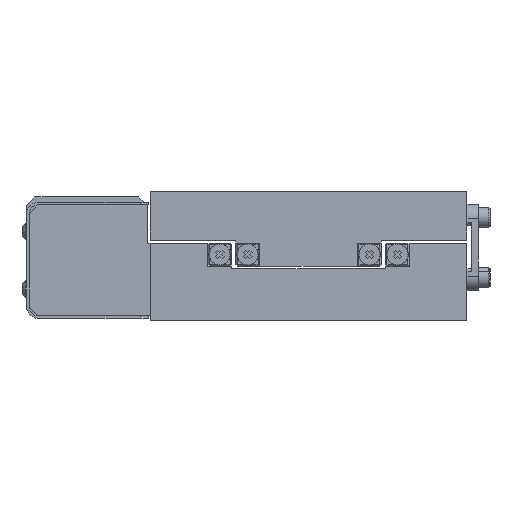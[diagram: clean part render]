
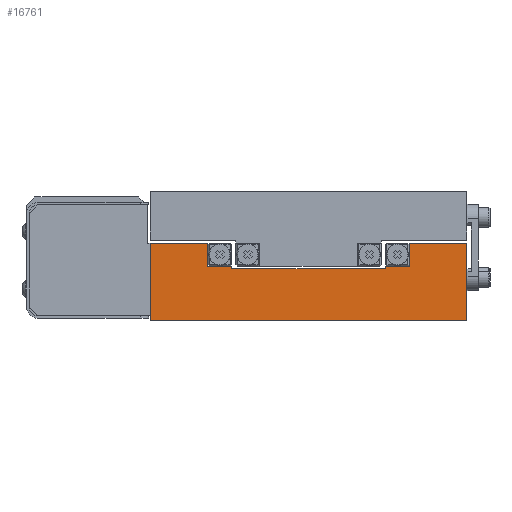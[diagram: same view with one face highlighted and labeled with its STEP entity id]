
A CAD part, front view. The second image highlights one B-rep face of the part: STEP entity #16761.
In plain terms, the highlighted planar face has unit normal (0, -1, 0).
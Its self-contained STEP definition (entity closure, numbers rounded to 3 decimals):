
#66 = LINE ( 'NONE', #39163, #34057 ) ;
#948 = CARTESIAN_POINT ( 'NONE',  ( -26.7, -75., 18. ) ) ;
#1262 = CARTESIAN_POINT ( 'NONE',  ( 35., -75., 27. ) ) ;
#1587 = VECTOR ( 'NONE', #24935, 1000. ) ;
#1725 = LINE ( 'NONE', #40819, #38484 ) ;
#1888 = VECTOR ( 'NONE', #7886, 1000. ) ;
#2174 = LINE ( 'NONE', #18067, #52046 ) ;
#3212 = CARTESIAN_POINT ( 'NONE',  ( -26.7, -75., 19. ) ) ;
#4945 = ORIENTED_EDGE ( 'NONE', *, *, #43928, .T. ) ;
#5204 = CARTESIAN_POINT ( 'NONE',  ( 35., -75., 19. ) ) ;
#6698 = EDGE_CURVE ( 'NONE', #20616, #33906, #38237, .T. ) ;
#6811 = ORIENTED_EDGE ( 'NONE', *, *, #12399, .F. ) ;
#7886 = DIRECTION ( 'NONE',  ( 1., 0., 0. ) ) ;
#8160 = DIRECTION ( 'NONE',  ( 0., 0., -1. ) ) ;
#8434 = VECTOR ( 'NONE', #31679, 1000. ) ;
#8998 = DIRECTION ( 'NONE',  ( 0., 0., -1. ) ) ;
#9884 = DIRECTION ( 'NONE',  ( 1., 0., 0. ) ) ;
#10144 = LINE ( 'NONE', #48670, #55835 ) ;
#10340 = LINE ( 'NONE', #948, #12417 ) ;
#12321 = CARTESIAN_POINT ( 'NONE',  ( 26.7, -75., 18. ) ) ;
#12399 = EDGE_CURVE ( 'NONE', #44153, #44307, #17151, .T. ) ;
#12417 = VECTOR ( 'NONE', #9884, 1000. ) ;
#13718 = DIRECTION ( 'NONE',  ( 1., 0., 0. ) ) ;
#14412 = CARTESIAN_POINT ( 'NONE',  ( 26.7, -75., 18. ) ) ;
#14866 = DIRECTION ( 'NONE',  ( 0., 0., 1. ) ) ;
#15046 = ORIENTED_EDGE ( 'NONE', *, *, #40645, .F. ) ;
#15247 = DIRECTION ( 'NONE',  ( 0., 1., 0. ) ) ;
#15308 = VECTOR ( 'NONE', #25456, 1000. ) ;
#15589 = DIRECTION ( 'NONE',  ( 1., 0., 0. ) ) ;
#16761 = ADVANCED_FACE ( 'NONE', ( #42002 ), #41768, .F. ) ;
#17151 = LINE ( 'NONE', #42769, #1888 ) ;
#17279 = ORIENTED_EDGE ( 'NONE', *, *, #55632, .F. ) ;
#17372 = VERTEX_POINT ( 'NONE', #17482 ) ;
#17482 = CARTESIAN_POINT ( 'NONE',  ( -26.7, -75., 18. ) ) ;
#17717 = LINE ( 'NONE', #50861, #51613 ) ;
#18067 = CARTESIAN_POINT ( 'NONE',  ( -26.7, -75., 19. ) ) ;
#18251 = VERTEX_POINT ( 'NONE', #20469 ) ;
#19529 = VERTEX_POINT ( 'NONE', #40525 ) ;
#20240 = CARTESIAN_POINT ( 'NONE',  ( -55., -75., 27. ) ) ;
#20469 = CARTESIAN_POINT ( 'NONE',  ( 55., -75., 27. ) ) ;
#20616 = VERTEX_POINT ( 'NONE', #12321 ) ;
#22026 = EDGE_LOOP ( 'NONE', ( #17279, #45781, #15046, #52827, #45536, #48021, #52800, #46733, #6811, #38162, #4945, #26268 ) ) ;
#23719 = CARTESIAN_POINT ( 'NONE',  ( -55., -75., 27. ) ) ;
#24935 = DIRECTION ( 'NONE',  ( 1., 0., 0. ) ) ;
#25456 = DIRECTION ( 'NONE',  ( 0., 0., 1. ) ) ;
#26268 = ORIENTED_EDGE ( 'NONE', *, *, #31176, .F. ) ;
#26474 = EDGE_CURVE ( 'NONE', #31984, #34266, #33259, .T. ) ;
#26604 = VERTEX_POINT ( 'NONE', #1262 ) ;
#27434 = VECTOR ( 'NONE', #15589, 1000. ) ;
#27562 = VERTEX_POINT ( 'NONE', #5204 ) ;
#28510 = AXIS2_PLACEMENT_3D ( 'NONE', #23719, #15247, #14866 ) ;
#31176 = EDGE_CURVE ( 'NONE', #18251, #54165, #66, .T. ) ;
#31679 = DIRECTION ( 'NONE',  ( 0., 0., 1. ) ) ;
#31984 = VERTEX_POINT ( 'NONE', #35166 ) ;
#33259 = LINE ( 'NONE', #49086, #46397 ) ;
#33906 = VERTEX_POINT ( 'NONE', #53386 ) ;
#34057 = VECTOR ( 'NONE', #8160, 1000. ) ;
#34266 = VERTEX_POINT ( 'NONE', #3212 ) ;
#35166 = CARTESIAN_POINT ( 'NONE',  ( -35., -75., 19. ) ) ;
#38162 = ORIENTED_EDGE ( 'NONE', *, *, #55441, .T. ) ;
#38191 = LINE ( 'NONE', #56590, #15308 ) ;
#38237 = LINE ( 'NONE', #14412, #8434 ) ;
#38484 = VECTOR ( 'NONE', #40044, 1000. ) ;
#39163 = CARTESIAN_POINT ( 'NONE',  ( 55., -75., 27. ) ) ;
#40028 = CARTESIAN_POINT ( 'NONE',  ( 55., -75., 0. ) ) ;
#40044 = DIRECTION ( 'NONE',  ( 1., 0., 0. ) ) ;
#40525 = CARTESIAN_POINT ( 'NONE',  ( -55., -75., 0. ) ) ;
#40645 = EDGE_CURVE ( 'NONE', #33906, #27562, #56959, .T. ) ;
#40819 = CARTESIAN_POINT ( 'NONE',  ( -55., -75., 0. ) ) ;
#41768 = PLANE ( 'NONE',  #28510 ) ;
#42002 = FACE_OUTER_BOUND ( 'NONE', #22026, .T. ) ;
#42027 = EDGE_CURVE ( 'NONE', #34266, #17372, #2174, .T. ) ;
#42769 = CARTESIAN_POINT ( 'NONE',  ( -55., -75., 27. ) ) ;
#43928 = EDGE_CURVE ( 'NONE', #19529, #54165, #1725, .T. ) ;
#44153 = VERTEX_POINT ( 'NONE', #46977 ) ;
#44160 = CARTESIAN_POINT ( 'NONE',  ( -35., -75., 27. ) ) ;
#44175 = EDGE_CURVE ( 'NONE', #44307, #31984, #17717, .T. ) ;
#44307 = VERTEX_POINT ( 'NONE', #44160 ) ;
#45536 = ORIENTED_EDGE ( 'NONE', *, *, #53750, .F. ) ;
#45781 = ORIENTED_EDGE ( 'NONE', *, *, #52839, .F. ) ;
#46251 = CARTESIAN_POINT ( 'NONE',  ( 26.7, -75., 19. ) ) ;
#46397 = VECTOR ( 'NONE', #13718, 1000. ) ;
#46733 = ORIENTED_EDGE ( 'NONE', *, *, #44175, .F. ) ;
#46977 = CARTESIAN_POINT ( 'NONE',  ( -55., -75., 27. ) ) ;
#48021 = ORIENTED_EDGE ( 'NONE', *, *, #42027, .F. ) ;
#48670 = CARTESIAN_POINT ( 'NONE',  ( -55., -75., 27. ) ) ;
#49086 = CARTESIAN_POINT ( 'NONE',  ( -35., -75., 19. ) ) ;
#50861 = CARTESIAN_POINT ( 'NONE',  ( -35., -75., 27. ) ) ;
#51041 = DIRECTION ( 'NONE',  ( 0., 0., -1. ) ) ;
#51613 = VECTOR ( 'NONE', #51041, 1000. ) ;
#52046 = VECTOR ( 'NONE', #53504, 1000. ) ;
#52345 = LINE ( 'NONE', #20240, #27434 ) ;
#52800 = ORIENTED_EDGE ( 'NONE', *, *, #26474, .F. ) ;
#52827 = ORIENTED_EDGE ( 'NONE', *, *, #6698, .F. ) ;
#52839 = EDGE_CURVE ( 'NONE', #27562, #26604, #38191, .T. ) ;
#53386 = CARTESIAN_POINT ( 'NONE',  ( 26.7, -75., 19. ) ) ;
#53504 = DIRECTION ( 'NONE',  ( 0., 0., -1. ) ) ;
#53750 = EDGE_CURVE ( 'NONE', #17372, #20616, #10340, .T. ) ;
#54165 = VERTEX_POINT ( 'NONE', #40028 ) ;
#55441 = EDGE_CURVE ( 'NONE', #44153, #19529, #10144, .T. ) ;
#55632 = EDGE_CURVE ( 'NONE', #26604, #18251, #52345, .T. ) ;
#55835 = VECTOR ( 'NONE', #8998, 1000. ) ;
#56590 = CARTESIAN_POINT ( 'NONE',  ( 35., -75., 19. ) ) ;
#56959 = LINE ( 'NONE', #46251, #1587 ) ;
